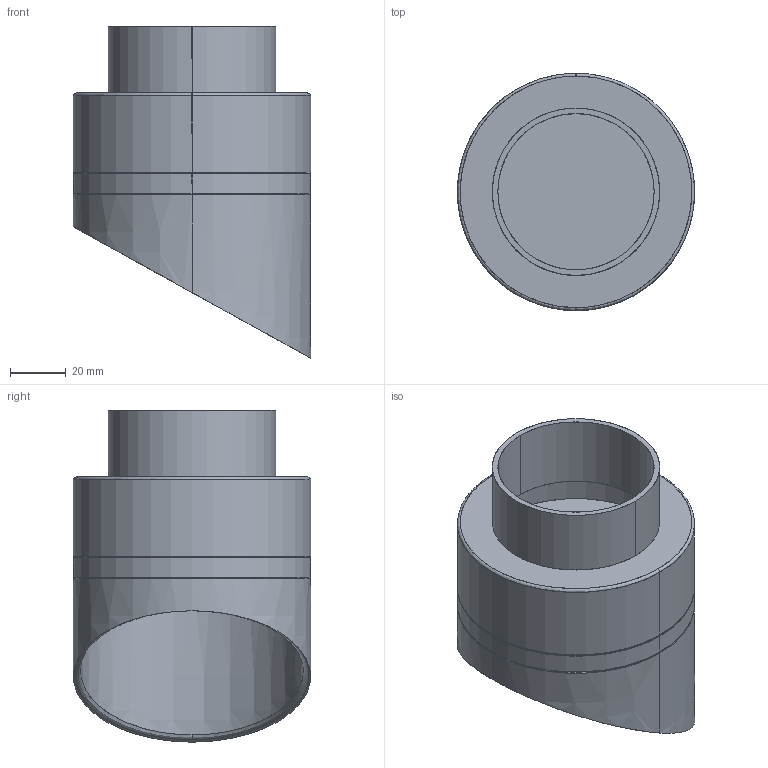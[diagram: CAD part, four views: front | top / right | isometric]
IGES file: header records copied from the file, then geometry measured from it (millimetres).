
Start section: SolidWorks IGES file using analytic representation for surfaces
Global section: file name: C:\Users\anna.bielnik\Desktop\modele 3D tymczasowe\VIS\PM\VIS_Z£O¯ENIE.IGS; native system: SolidWorks 2023; preprocessor: SolidWorks 2023; author: anna.bielnik; date: 230710.144214; units: millimetre
Bounding box: 85.01 x 85.01 x 119 mm (x, y, z)
Surface area: 68051.3 mm2 (no closed solid volume)
Topology: 0 solids, 0 shells, 39 faces, 1330 edges, 1330 vertices
Faces by surface type: revolution 20, bspline 19
